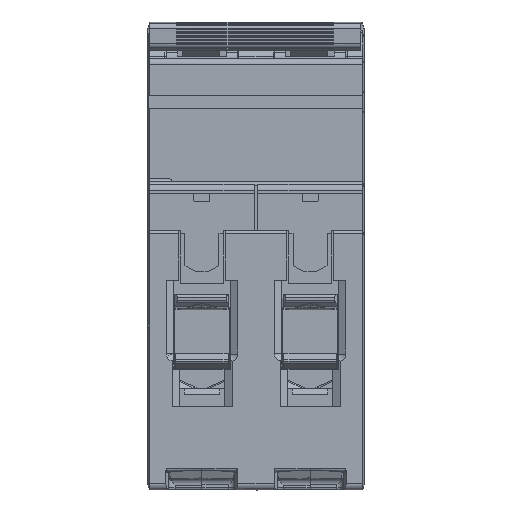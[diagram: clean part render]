
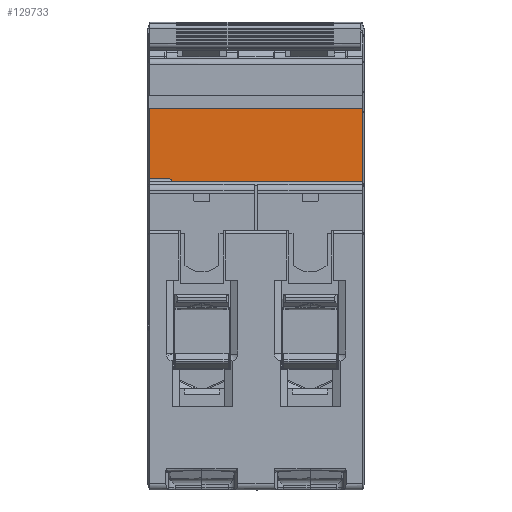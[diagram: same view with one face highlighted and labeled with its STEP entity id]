
A CAD part, front view. The second image highlights one B-rep face of the part: STEP entity #129733.
In plain terms, the highlighted planar face has unit normal (0, -1, 0).
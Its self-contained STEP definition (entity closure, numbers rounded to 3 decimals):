
#1138 = VERTEX_POINT ( 'NONE', #98602 ) ;
#1757 = ORIENTED_EDGE ( 'NONE', *, *, #71610, .T. ) ;
#1828 = DIRECTION ( 'NONE',  ( 0., 0., 1. ) ) ;
#2960 = ORIENTED_EDGE ( 'NONE', *, *, #113114, .F. ) ;
#4715 = ORIENTED_EDGE ( 'NONE', *, *, #57067, .T. ) ;
#4810 = PLANE ( 'NONE',  #137250 ) ;
#6143 = ORIENTED_EDGE ( 'NONE', *, *, #98092, .F. ) ;
#6601 = CARTESIAN_POINT ( 'NONE',  ( 11.361, -16.627, 12.604 ) ) ;
#8049 = DIRECTION ( 'NONE',  ( 1., 0., 0. ) ) ;
#8280 = CARTESIAN_POINT ( 'NONE',  ( 10.961, -16.627, 12.204 ) ) ;
#8357 = CARTESIAN_POINT ( 'NONE',  ( 15.461, -16.627, 11.604 ) ) ;
#8709 = EDGE_CURVE ( 'NONE', #12220, #80955, #57162, .T. ) ;
#12220 = VERTEX_POINT ( 'NONE', #88354 ) ;
#16217 = CARTESIAN_POINT ( 'NONE',  ( 19.561, -16.627, 12.604 ) ) ;
#17214 = CARTESIAN_POINT ( 'NONE',  ( 19.561, -16.627, 12.604 ) ) ;
#17682 = VECTOR ( 'NONE', #60973, 1000. ) ;
#19549 = DIRECTION ( 'NONE',  ( 1., 0., 0. ) ) ;
#20193 = EDGE_CURVE ( 'NONE', #37560, #20479, #53064, .T. ) ;
#20479 = VERTEX_POINT ( 'NONE', #46235 ) ;
#21532 = DIRECTION ( 'NONE',  ( 0., 0., 1. ) ) ;
#22139 = VERTEX_POINT ( 'NONE', #23276 ) ;
#22253 = LINE ( 'NONE', #51231, #45116 ) ;
#22553 = LINE ( 'NONE', #27091, #48866 ) ;
#22672 = ORIENTED_EDGE ( 'NONE', *, *, #122452, .T. ) ;
#23276 = CARTESIAN_POINT ( 'NONE',  ( 28.961, -16.627, 12.604 ) ) ;
#23365 = LINE ( 'NONE', #65647, #76042 ) ;
#25835 = VERTEX_POINT ( 'NONE', #71180 ) ;
#27091 = CARTESIAN_POINT ( 'NONE',  ( 28.961, -16.627, 12.604 ) ) ;
#27845 = VERTEX_POINT ( 'NONE', #113441 ) ;
#28818 = VERTEX_POINT ( 'NONE', #77250 ) ;
#29516 = CARTESIAN_POINT ( 'NONE',  ( 15.461, -16.627, 12.604 ) ) ;
#31755 = VECTOR ( 'NONE', #1828, 1000. ) ;
#32357 = CARTESIAN_POINT ( 'NONE',  ( 28.561, -16.627, 12.604 ) ) ;
#35276 = LINE ( 'NONE', #57743, #31755 ) ;
#37560 = VERTEX_POINT ( 'NONE', #8280 ) ;
#39777 = VERTEX_POINT ( 'NONE', #50063 ) ;
#39959 = CARTESIAN_POINT ( 'NONE',  ( 19.961, -16.627, 12.204 ) ) ;
#40787 = DIRECTION ( 'NONE',  ( 1., 0., 0. ) ) ;
#42041 = CARTESIAN_POINT ( 'NONE',  ( 19.961, -16.627, 11.604 ) ) ;
#45116 = VECTOR ( 'NONE', #62082, 1000. ) ;
#45978 = DIRECTION ( 'NONE',  ( -1., 0., 0. ) ) ;
#46235 = CARTESIAN_POINT ( 'NONE',  ( 11.361, -16.627, 12.604 ) ) ;
#48866 = VECTOR ( 'NONE', #60951, 1000. ) ;
#50053 = DIRECTION ( 'NONE',  ( -0.707, 0., 0.707 ) ) ;
#50063 = CARTESIAN_POINT ( 'NONE',  ( 32.861, -16.627, 24.504 ) ) ;
#51231 = CARTESIAN_POINT ( 'NONE',  ( 15.461, -16.627, 13.104 ) ) ;
#52240 = CARTESIAN_POINT ( 'NONE',  ( -1.939, -16.627, 12.604 ) ) ;
#53064 = LINE ( 'NONE', #6601, #108823 ) ;
#53115 = VERTEX_POINT ( 'NONE', #77808 ) ;
#53237 = VECTOR ( 'NONE', #45978, 1000. ) ;
#57067 = EDGE_CURVE ( 'NONE', #25835, #12220, #22253, .T. ) ;
#57162 = LINE ( 'NONE', #132330, #112898 ) ;
#57416 = VECTOR ( 'NONE', #50053, 1000. ) ;
#57743 = CARTESIAN_POINT ( 'NONE',  ( 2.361, -16.627, 12.604 ) ) ;
#58690 = ORIENTED_EDGE ( 'NONE', *, *, #73132, .F. ) ;
#60951 = DIRECTION ( 'NONE',  ( 0.707, 0., 0.707 ) ) ;
#60973 = DIRECTION ( 'NONE',  ( 0., 0., -1. ) ) ;
#61582 = ORIENTED_EDGE ( 'NONE', *, *, #72297, .T. ) ;
#61680 = CARTESIAN_POINT ( 'NONE',  ( 15.461, -16.627, 12.604 ) ) ;
#62082 = DIRECTION ( 'NONE',  ( 1., 0., 0. ) ) ;
#62438 = ORIENTED_EDGE ( 'NONE', *, *, #114175, .F. ) ;
#63309 = ORIENTED_EDGE ( 'NONE', *, *, #68255, .T. ) ;
#64328 = VERTEX_POINT ( 'NONE', #110081 ) ;
#64443 = LINE ( 'NONE', #16217, #57416 ) ;
#65147 = LINE ( 'NONE', #8357, #120789 ) ;
#65647 = CARTESIAN_POINT ( 'NONE',  ( 33.061, -16.627, 11.604 ) ) ;
#66155 = FACE_OUTER_BOUND ( 'NONE', #136825, .T. ) ;
#68255 = EDGE_CURVE ( 'NONE', #53115, #22139, #22553, .T. ) ;
#68762 = DIRECTION ( 'NONE',  ( 0., 0., -1. ) ) ;
#71180 = CARTESIAN_POINT ( 'NONE',  ( -1.939, -16.627, 13.104 ) ) ;
#71610 = EDGE_CURVE ( 'NONE', #20479, #109918, #134823, .T. ) ;
#72297 = EDGE_CURVE ( 'NONE', #92161, #28818, #65147, .T. ) ;
#72969 = DIRECTION ( 'NONE',  ( 1., 0., 0. ) ) ;
#73132 = EDGE_CURVE ( 'NONE', #92161, #80955, #35276, .T. ) ;
#74931 = VECTOR ( 'NONE', #68762, 1000. ) ;
#75672 = ORIENTED_EDGE ( 'NONE', *, *, #84975, .T. ) ;
#76042 = VECTOR ( 'NONE', #76853, 1000. ) ;
#76853 = DIRECTION ( 'NONE',  ( -1., 0., 0. ) ) ;
#77068 = DIRECTION ( 'NONE',  ( 0., 0., 1. ) ) ;
#77250 = CARTESIAN_POINT ( 'NONE',  ( 10.961, -16.627, 11.604 ) ) ;
#77808 = CARTESIAN_POINT ( 'NONE',  ( 28.561, -16.627, 12.204 ) ) ;
#78910 = EDGE_CURVE ( 'NONE', #39777, #1138, #82974, .T. ) ;
#79798 = VECTOR ( 'NONE', #77068, 1000. ) ;
#80760 = CARTESIAN_POINT ( 'NONE',  ( 2.361, -16.627, 11.604 ) ) ;
#80955 = VERTEX_POINT ( 'NONE', #97505 ) ;
#82974 = LINE ( 'NONE', #90350, #53237 ) ;
#84975 = EDGE_CURVE ( 'NONE', #64328, #53115, #116585, .T. ) ;
#87015 = VECTOR ( 'NONE', #21532, 1000. ) ;
#87392 = ORIENTED_EDGE ( 'NONE', *, *, #8709, .T. ) ;
#87856 = ORIENTED_EDGE ( 'NONE', *, *, #78910, .T. ) ;
#88354 = CARTESIAN_POINT ( 'NONE',  ( 1.461, -16.627, 13.104 ) ) ;
#90350 = CARTESIAN_POINT ( 'NONE',  ( 15.461, -16.627, 24.504 ) ) ;
#92161 = VERTEX_POINT ( 'NONE', #80760 ) ;
#94723 = VERTEX_POINT ( 'NONE', #42041 ) ;
#95555 = EDGE_CURVE ( 'NONE', #133395, #94723, #106843, .T. ) ;
#97505 = CARTESIAN_POINT ( 'NONE',  ( 2.361, -16.627, 12.204 ) ) ;
#98092 = EDGE_CURVE ( 'NONE', #133395, #109918, #64443, .T. ) ;
#98602 = CARTESIAN_POINT ( 'NONE',  ( -1.939, -16.627, 24.504 ) ) ;
#101955 = ORIENTED_EDGE ( 'NONE', *, *, #144586, .T. ) ;
#104371 = LINE ( 'NONE', #124044, #74931 ) ;
#105211 = VECTOR ( 'NONE', #8049, 1000. ) ;
#106843 = LINE ( 'NONE', #116440, #17682 ) ;
#108150 = CARTESIAN_POINT ( 'NONE',  ( 15.461, -16.627, 12.604 ) ) ;
#108823 = VECTOR ( 'NONE', #140258, 1000. ) ;
#109918 = VERTEX_POINT ( 'NONE', #17214 ) ;
#110081 = CARTESIAN_POINT ( 'NONE',  ( 28.561, -16.627, 11.604 ) ) ;
#110355 = ORIENTED_EDGE ( 'NONE', *, *, #95555, .T. ) ;
#112435 = VECTOR ( 'NONE', #131087, 1000. ) ;
#112898 = VECTOR ( 'NONE', #143454, 1000. ) ;
#113114 = EDGE_CURVE ( 'NONE', #64328, #94723, #23365, .T. ) ;
#113441 = CARTESIAN_POINT ( 'NONE',  ( 32.861, -16.627, 12.604 ) ) ;
#113841 = VECTOR ( 'NONE', #40787, 1000. ) ;
#114175 = EDGE_CURVE ( 'NONE', #39777, #27845, #104371, .T. ) ;
#115885 = LINE ( 'NONE', #52240, #112435 ) ;
#116440 = CARTESIAN_POINT ( 'NONE',  ( 19.961, -16.627, 12.604 ) ) ;
#116585 = LINE ( 'NONE', #32357, #87015 ) ;
#118846 = ORIENTED_EDGE ( 'NONE', *, *, #140073, .T. ) ;
#120789 = VECTOR ( 'NONE', #19549, 1000. ) ;
#121224 = CARTESIAN_POINT ( 'NONE',  ( 10.961, -16.627, 12.604 ) ) ;
#122452 = EDGE_CURVE ( 'NONE', #28818, #37560, #142290, .T. ) ;
#122660 = ORIENTED_EDGE ( 'NONE', *, *, #20193, .T. ) ;
#124044 = CARTESIAN_POINT ( 'NONE',  ( 32.861, -16.627, -31.296 ) ) ;
#129733 = ADVANCED_FACE ( 'NONE', ( #66155 ), #4810, .T. ) ;
#131087 = DIRECTION ( 'NONE',  ( 0., 0., -1. ) ) ;
#132330 = CARTESIAN_POINT ( 'NONE',  ( 1.461, -16.627, 13.104 ) ) ;
#133395 = VERTEX_POINT ( 'NONE', #39959 ) ;
#134823 = LINE ( 'NONE', #108150, #105211 ) ;
#136825 = EDGE_LOOP ( 'NONE', ( #87856, #101955, #4715, #87392, #58690, #61582, #22672, #122660, #1757, #6143, #110355, #2960, #75672, #63309, #118846, #62438 ) ) ;
#137250 = AXIS2_PLACEMENT_3D ( 'NONE', #61680, #139440, #72969 ) ;
#139440 = DIRECTION ( 'NONE',  ( 0., -1., 0. ) ) ;
#140073 = EDGE_CURVE ( 'NONE', #22139, #27845, #143354, .T. ) ;
#140258 = DIRECTION ( 'NONE',  ( 0.707, 0., 0.707 ) ) ;
#142290 = LINE ( 'NONE', #121224, #79798 ) ;
#143354 = LINE ( 'NONE', #29516, #113841 ) ;
#143454 = DIRECTION ( 'NONE',  ( 0.707, 0., -0.707 ) ) ;
#144586 = EDGE_CURVE ( 'NONE', #1138, #25835, #115885, .T. ) ;
